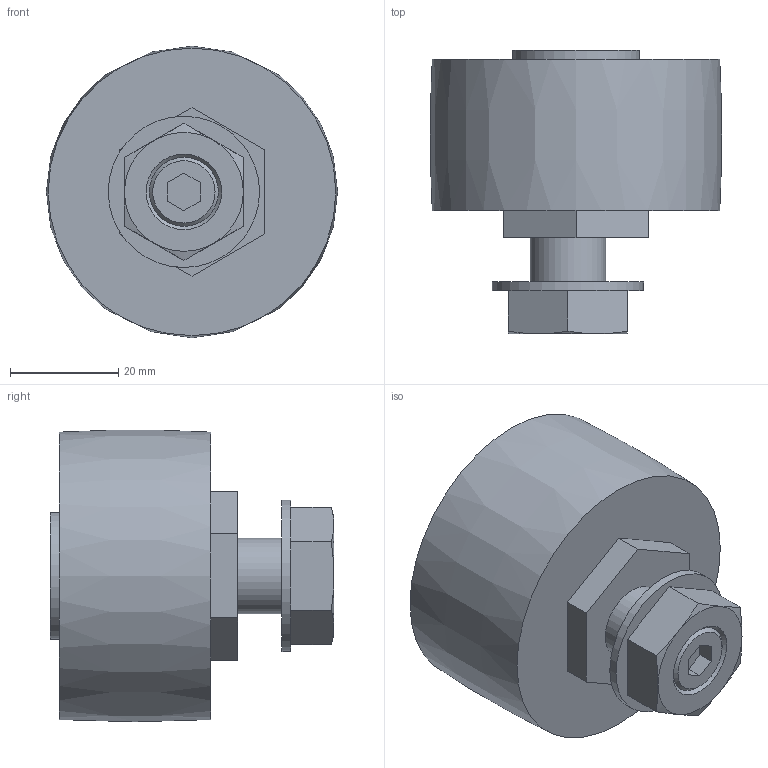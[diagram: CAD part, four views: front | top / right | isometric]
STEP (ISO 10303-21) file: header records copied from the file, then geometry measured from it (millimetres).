
FILE_DESCRIPTION( ( 'STEP AP203' ), '1' );
FILE_NAME( 'p:/temp/worker_106/temp/exporttempdir_768_780_Nr6eD/format_1/SR54E.stp', '2021-09-29T07:16:05', ( 'License CC BY-ND 4.0' ), ( 'CADENAS' ), ' ', 'PARTsolutions', ' ' );
FILE_SCHEMA( ( 'CONFIG_CONTROL_DESIGN' ) );
Length unit declared in the file: millimetre
Products named in the file (2): SR54E; _SR54E_
Assembly tree (1 placements, depth 2):
  SR54E
    _SR54E_
Bounding box: 53.91 x 52.5 x 53.96 mm (x, y, z)
Volume: 72749.7 mm3; surface area: 11930.3 mm2
Topology: 1 solids, 1 shells, 46 faces, 104 edges, 68 vertices
Faces by surface type: plane 34, cone 8, cylinder 3, bspline 1
Full cylindrical faces by diameter (mm): 14 x1, 23.5 x1, 28 x1
Entity records: 1354 total; most frequent: CARTESIAN_POINT 295, DIRECTION 194, ORIENTED_EDGE 190, EDGE_CURVE 95, LINE 66, VECTOR 66, VERTEX_POINT 65, AXIS2_PLACEMENT_3D 64
